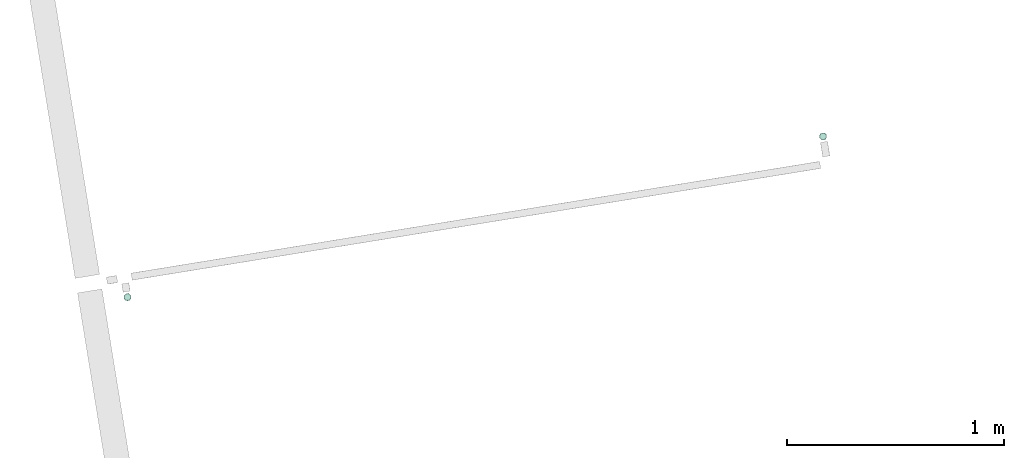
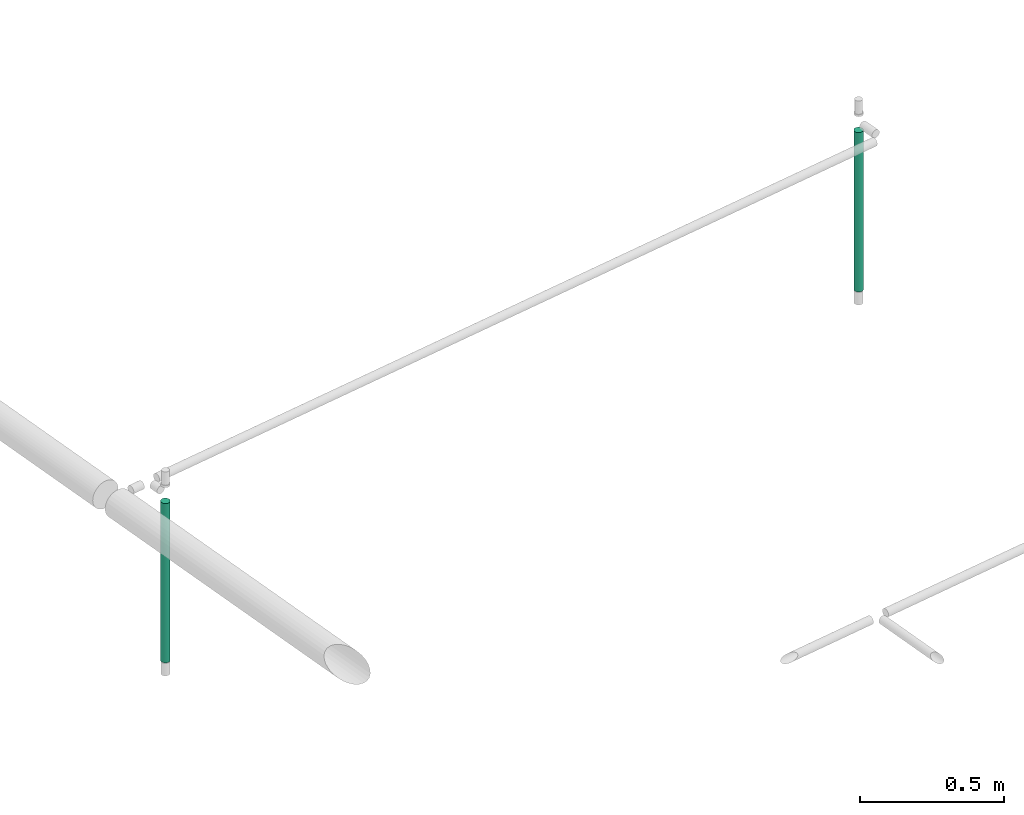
# One storey, part 4 of 11: 2 flow segments.
"""IFC2X3 building model written with IfcOpenShell, lengths in millimetres."""

import ifcopenshell
import ifcopenshell.guid

model = None  # the IFC model being written
_history = None  # IfcOwnerHistory: only IFC2X3 demands one
_inside = {}  # id of a spatial element -> (the spatial element, [elements in it])
_under = {}  # id of a project, library or spatial element -> (it, [spatial elements below it])
_declared = {}  # id of a project -> (the project, [libraries it declares])
_typed = {}  # id of a type object -> (the type object, [elements of that type])
_made_of = {}  # id of a material, layer set ... -> (it, [elements and type objects made of it])


def new_model(schema):
    """Start an empty IFC model of exactly this schema.

    Asked for "IFC4X3", IfcOpenShell would pick the latest addendum, in which some entities
    have other attributes; the version numbers below select the first issue.
    IFC2X3 requires an IfcOwnerHistory on every rooted entity: one is made here for all.
    """
    global model, _history
    if schema == "IFC4X3":
        model = ifcopenshell.file(schema_version=(4, 3, 0, 0))
    else:
        model = ifcopenshell.file(schema=schema)
    _inside.clear()
    _under.clear()
    _declared.clear()
    _typed.clear()
    _made_of.clear()
    _history = None
    if model.schema == "IFC2X3":
        org = make("IfcOrganization", Name="unknown")
        user = make(
            "IfcPersonAndOrganization",
            ThePerson=make("IfcPerson", FamilyName="unknown"),
            TheOrganization=org,
        )
        app = make(
            "IfcApplication",
            ApplicationDeveloper=org,
            Version="unknown",
            ApplicationFullName="unknown",
            ApplicationIdentifier="unknown",
        )
        _history = make(
            "IfcOwnerHistory",
            OwningUser=user,
            OwningApplication=app,
            ChangeAction="ADDED",
            CreationDate=0,
        )
    return model


def make(cls, **values):
    """One entity of the class cls with the attributes given. An attribute that is None is left unset."""
    return model.create_entity(
        cls, **{name: value for name, value in values.items() if value is not None}
    )


def entity(cls, *values):
    """Any entity or typed value of the class cls, its attributes in the order of the schema. None: left unset."""
    e = model.create_entity(cls)
    for i, value in enumerate(values):
        if value is not None:
            e[i] = value
    return e


def rooted(cls, **values):
    """An entity with a GlobalId (a new one), such as an element, a storey or a relation."""
    return make(cls, GlobalId=ifcopenshell.guid.new(), OwnerHistory=_history, **values)


def si_unit(unit_type, name, prefix=None):
    """IfcSIUnit, for example si_unit("LENGTHUNIT", "METRE", prefix="MILLI")."""
    return make("IfcSIUnit", UnitType=unit_type, Prefix=prefix, Name=name)


def converted_unit(unit_type, name, factor, base, dimensions=None, offset=None):
    """IfcConversionBasedUnit, such as the inch: factor (a typed value) times the base unit."""
    return make(
        "IfcConversionBasedUnit"
        if offset is None
        else "IfcConversionBasedUnitWithOffset",
        ConversionOffset=offset,
        Dimensions=None
        if dimensions is None
        else entity("IfcDimensionalExponents", *dimensions),
        UnitType=unit_type,
        Name=name,
        ConversionFactor=make(
            "IfcMeasureWithUnit", ValueComponent=factor, UnitComponent=base
        ),
    )


def derived_unit(unit_type, elements):
    """IfcDerivedUnit: a product of units, each with its exponent."""
    return make(
        "IfcDerivedUnit",
        Elements=[
            make("IfcDerivedUnitElement", Unit=unit, Exponent=power)
            for unit, power in elements
        ],
        UnitType=unit_type,
    )


def assignment(units):
    """IfcUnitAssignment: the units of a project."""
    return None if units is None else make("IfcUnitAssignment", Units=units)


def point(xyz):
    """IfcCartesianPoint."""
    return None if xyz is None else make("IfcCartesianPoint", Coordinates=xyz)


def direction(xyz):
    """IfcDirection."""
    return None if xyz is None else make("IfcDirection", DirectionRatios=xyz)


def frame(location, z_axis=None, x_axis=None):
    """IfcAxis2Placement3D, a coordinate frame: its origin and axes. An axis left out is left unset."""
    return make(
        "IfcAxis2Placement3D",
        Location=point(location),
        Axis=direction(z_axis),
        RefDirection=direction(x_axis),
    )


def frame_2d(location, x_axis=None):
    """IfcAxis2Placement2D, a coordinate frame in the plane: its origin and x axis."""
    return make(
        "IfcAxis2Placement2D", Location=point(location), RefDirection=direction(x_axis)
    )


def origin():
    """The frame at (0, 0, 0) with its axes left unset."""
    return frame((0.0, 0.0, 0.0))


def origin_with_axes():
    """The frame at (0, 0, 0) with the z axis (0, 0, 1) and the x axis (1, 0, 0) written out."""
    return frame((0.0, 0.0, 0.0), z_axis=(0.0, 0.0, 1.0), x_axis=(1.0, 0.0, 0.0))


def origin_2d_with_axis():
    """The frame at (0, 0) in the plane with the x axis (1, 0) written out."""
    return frame_2d((0.0, 0.0), x_axis=(1.0, 0.0))


def place(relative_to, where):
    """IfcLocalPlacement: puts the frame where relative to a parent placement (None: the world)."""
    return make(
        "IfcLocalPlacement", PlacementRelTo=relative_to, RelativePlacement=where
    )


def context(
    kind, dimensions, precision=None, world=None, true_north=None, identifier=None
):
    """IfcGeometricRepresentationContext, for example the 3D "Model" context."""
    return make(
        "IfcGeometricRepresentationContext",
        ContextIdentifier=identifier,
        ContextType=kind,
        CoordinateSpaceDimension=dimensions,
        Precision=precision,
        WorldCoordinateSystem=world,
        TrueNorth=true_north,
    )


def subcontext(parent, identifier, kind, view, scale=None):
    """IfcGeometricRepresentationSubContext, for example "Body" below "Model"."""
    return make(
        "IfcGeometricRepresentationSubContext",
        ContextIdentifier=identifier,
        ContextType=kind,
        ParentContext=parent,
        TargetScale=scale,
        TargetView=view,
    )


def project(units=None, contexts=None):
    """IfcProject with its units and contexts."""
    return rooted(
        "IfcProject",
        Name="project",
        RepresentationContexts=contexts,
        UnitsInContext=assignment(units),
    )


def spatial(cls, under=None, at=None, **own):
    """A site, building, storey or space (cls), placed at a placement, below another one or the project."""
    s = rooted(cls, ObjectPlacement=at, **own)
    if under is not None:
        _under.setdefault(under.id(), (under, []))[1].append(s)
    return s


def profile(cls, at=None, kind="AREA", **sizes):
    """A parametric profile (cls). Its sizes go by their IFC names, for example OverallWidth=200.0."""
    return make(cls, ProfileType=kind, Position=at, **sizes)


def circle(**sizes):
    """IfcCircleProfileDef."""
    return profile("IfcCircleProfileDef", **sizes)


def extrude(swept, where, along, depth):
    """IfcExtrudedAreaSolid: the profile swept, set in the frame where, extruded along a direction by depth."""
    return make(
        "IfcExtrudedAreaSolid",
        SweptArea=swept,
        Position=where,
        ExtrudedDirection=direction(along),
        Depth=depth,
    )


def shape(context_of_items, identifier, shape_type, items):
    """IfcShapeRepresentation: the items that make up one representation, for example the "Body"."""
    return make(
        "IfcShapeRepresentation",
        ContextOfItems=context_of_items,
        RepresentationIdentifier=identifier,
        RepresentationType=shape_type,
        Items=items,
    )


def made_of(thing, what):
    """Note that an element or type object is made of a material, layer set ...; save() writes the relation."""
    if what is not None:
        _made_of.setdefault(what.id(), (what, []))[1].append(thing)
    return thing


def type_object(cls, material=None, **own):
    """A type object (cls), such as IfcWallType, which elements share."""
    return made_of(rooted(cls, **own), material)


def element(
    cls,
    number,
    at=None,
    inside=None,
    cuts=None,
    type_object=None,
    material=None,
    context=None,
    identifier="Body",
    shape_type=None,
    held_by="IfcProductDefinitionShape",
    body=None,
    shapes=None,
    **own,
):
    """One element of the class cls, such as IfcWall. Its Tag is "e" and its number.

    at: its placement. inside: the storey or other place that contains it. cuts: it is an
    opening in that element (IfcRelVoidsElement). A single representation is given by context,
    identifier, shape_type and body (its items); several are given by shapes. held_by: the class
    of the entity that holds the representations. save() writes the other relations.
    """
    e = rooted(cls, Tag="e%d" % number, ObjectPlacement=at, **own)
    if body is not None:
        shapes = [shape(context, identifier, shape_type, body)]
    if shapes is not None:
        e.Representation = make(held_by, Representations=shapes)
    if inside is not None:
        _inside.setdefault(inside.id(), (inside, []))[1].append(e)
    if cuts is not None:
        rooted(
            "IfcRelVoidsElement", RelatingBuildingElement=cuts, RelatedOpeningElement=e
        )
    if type_object is not None:
        _typed.setdefault(type_object.id(), (type_object, []))[1].append(e)
    return made_of(e, material)


def aggregate(whole, parts):
    """IfcRelAggregates: a whole, such as a stair, and the parts it consists of."""
    return rooted("IfcRelAggregates", RelatingObject=whole, RelatedObjects=parts)


def save(model, path):
    """Write the relations noted so far, then the file.

    IfcRelAggregates (storeys below a building ...), IfcRelContainedInSpatialStructure (elements
    in a storey), IfcRelDefinesByType, IfcRelAssociatesMaterial and IfcRelDeclares: one each for
    every whole, place, type object, material and project.
    """
    for whole, parts in _under.values():
        aggregate(whole, parts)
    for where, things in _inside.values():
        rooted(
            "IfcRelContainedInSpatialStructure",
            RelatedElements=things,
            RelatingStructure=where,
        )
    for kind, things in _typed.values():
        rooted("IfcRelDefinesByType", RelatedObjects=things, RelatingType=kind)
    for what, things in _made_of.values():
        rooted("IfcRelAssociatesMaterial", RelatedObjects=things, RelatingMaterial=what)
    for by, libraries in _declared.values():
        rooted("IfcRelDeclares", RelatingContext=by, RelatedDefinitions=libraries)
    model.write(path)


model = new_model("IFC2X3")

# Units and contexts
model_context = context("Model", 3, precision=0.01, world=origin(), true_north=direction((6.12323399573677e-17, 1.0)))
plan_context = context("Plan", 3, precision=1e-05, world=origin_with_axes())
body_context = subcontext(model_context, "Body", "Model", "MODEL_VIEW")
ifc_project = project(units=[converted_unit("PLANEANGLEUNIT", "DEGREE", entity("IfcPositiveLengthMeasure", 0.0174532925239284), si_unit("PLANEANGLEUNIT", "RADIAN"), dimensions=[0, 0, 0, 0, 0, 0, 0]), si_unit("AREAUNIT", "SQUARE_METRE"), si_unit("LENGTHUNIT", "METRE", prefix="MILLI"), si_unit("MASSUNIT", "GRAM", prefix="KILO"), si_unit("POWERUNIT", "WATT"), si_unit("PRESSUREUNIT", "PASCAL", prefix="KILO"), si_unit("FORCEUNIT", "NEWTON", prefix="KILO"), si_unit("ELECTRICVOLTAGEUNIT", "VOLT"), si_unit("ELECTRICCURRENTUNIT", "AMPERE"), si_unit("THERMODYNAMICTEMPERATUREUNIT", "DEGREE_CELSIUS"), si_unit("TIMEUNIT", "SECOND"), si_unit("VOLUMEUNIT", "CUBIC_METRE"), derived_unit("LINEARVELOCITYUNIT", [(si_unit("LENGTHUNIT", "METRE"), 1), (si_unit("TIMEUNIT", "SECOND"), -1)]), derived_unit("VOLUMETRICFLOWRATEUNIT", [(si_unit("VOLUMEUNIT", "CUBIC_METRE"), 1), (si_unit("TIMEUNIT", "SECOND"), -1)]), derived_unit("THERMALTRANSMITTANCEUNIT", [(si_unit("POWERUNIT", "WATT"), 1), (si_unit("THERMODYNAMICTEMPERATUREUNIT", "KELVIN"), -1), (si_unit("AREAUNIT", "SQUARE_METRE"), -1)]), derived_unit("SOUNDPRESSUREUNIT", [(si_unit("PRESSUREUNIT", "PASCAL"), 1)])], contexts=[model_context, plan_context])

# Site, building, storey
site_placement = place(None, frame((-0.00071070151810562, 0.00438415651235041, 0.0), z_axis=(0.0, 0.0, 1.0), x_axis=(-0.160236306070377, 0.987078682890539, 0.0)))
site = spatial("IfcSite", under=ifc_project, at=site_placement, Name="Default", CompositionType="ELEMENT")
building_placement = place(site_placement, origin_with_axes())
building = spatial("IfcBuilding", under=site, at=building_placement, CompositionType="ELEMENT")
storey_placement = place(building_placement, frame((0.0, 0.0, 50999.9999999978), z_axis=(0.0, 0.0, 1.0), x_axis=(1.0, 0.0, 0.0)))
storey = spatial("IfcBuildingStorey", under=building, at=storey_placement, Name="Nivå D", CompositionType="ELEMENT", Elevation=50999.9999999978)

# Flow segments
pipe_segment_type = type_object("IfcPipeSegmentType", Name="Pipe Types:Stålrør normaltykke", PredefinedType="NOTDEFINED")
flow_segment_1_placement = place(storey_placement, origin_with_axes())
element("IfcFlowSegment", 1, at=flow_segment_1_placement, inside=storey, type_object=pipe_segment_type, Name="Pipe Types:Stålrør normaltykke", ObjectType="Pipe Types:Stålrør normaltykke", context=body_context, shape_type="SweptSolid", body=[
    extrude(circle(Radius=16.8500004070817, at=origin_2d_with_axis()), frame((778302.619619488, -589807.48181812, 2703.04800000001), z_axis=(3.2748225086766e-08, 2.6206982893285e-05, 1.0), x_axis=(-1.0, 0.0, 3.27482250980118e-08)), (0.0, 0.0, 1.0), 675.152102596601),
])
flow_segment_2_placement = place(storey_placement, origin_with_axes())
element("IfcFlowSegment", 2, at=flow_segment_2_placement, inside=storey, type_object=pipe_segment_type, Name="Pipe Types:Stålrør normaltykke", ObjectType="Pipe Types:Stålrør normaltykke", context=body_context, shape_type="SweptSolid", body=[
    extrude(circle(Radius=16.8500004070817, at=origin_2d_with_axis()), frame((778520.244461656, -593091.967080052, 2703.04800000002), z_axis=(3.27274902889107e-08, 2.0534773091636e-08, 1.0), x_axis=(-1.0, 0.0, 3.27274902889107e-08)), (0.0, 0.0, 1.0), 675.152097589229),
])

save(model, "model.ifc")
